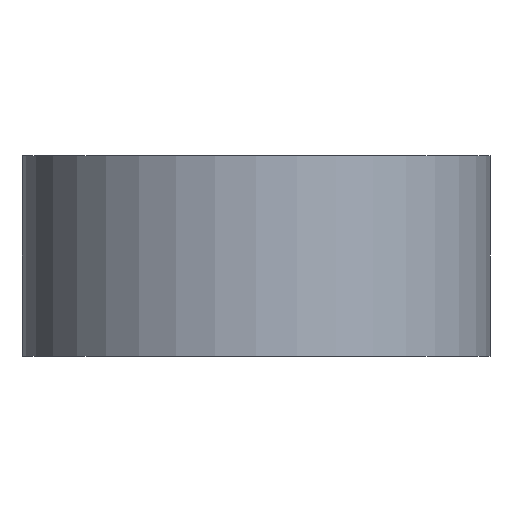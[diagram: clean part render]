
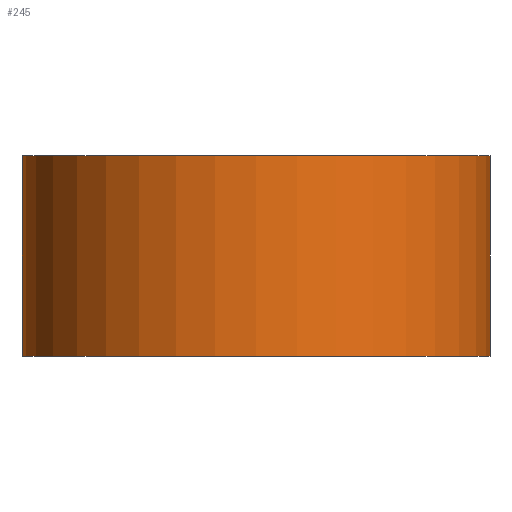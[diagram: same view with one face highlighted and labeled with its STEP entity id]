
A CAD part, front view. The second image highlights one B-rep face of the part: STEP entity #245.
In plain terms, the highlighted cylindrical face has radius 7 mm (diameter 14 mm), a partial arc.
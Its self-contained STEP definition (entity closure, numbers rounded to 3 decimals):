
#44=FACE_OUTER_BOUND('',#65,.T.);
#65=EDGE_LOOP('',(#213,#214,#215,#216));
#78=LINE('',#421,#92);
#83=LINE('',#432,#97);
#92=VECTOR('',#352,10.);
#97=VECTOR('',#363,10.);
#110=CIRCLE('',#283,7.);
#113=CIRCLE('',#290,7.);
#126=VERTEX_POINT('',#411);
#127=VERTEX_POINT('',#412);
#130=VERTEX_POINT('',#420);
#133=VERTEX_POINT('',#430);
#152=EDGE_CURVE('',#126,#127,#110,.T.);
#156=EDGE_CURVE('',#130,#127,#78,.T.);
#162=EDGE_CURVE('',#126,#133,#83,.T.);
#163=EDGE_CURVE('',#130,#133,#113,.T.);
#213=ORIENTED_EDGE('',*,*,#162,.T.);
#214=ORIENTED_EDGE('',*,*,#163,.F.);
#215=ORIENTED_EDGE('',*,*,#156,.T.);
#216=ORIENTED_EDGE('',*,*,#152,.F.);
#231=CYLINDRICAL_SURFACE('',#289,7.);
#245=ADVANCED_FACE('',(#44),#231,.T.);
#283=AXIS2_PLACEMENT_3D('',#413,#344,#345);
#289=AXIS2_PLACEMENT_3D('',#433,#364,#365);
#290=AXIS2_PLACEMENT_3D('',#434,#366,#367);
#344=DIRECTION('center_axis',(0.,0.,-1.));
#345=DIRECTION('ref_axis',(-1.,0.,0.));
#352=DIRECTION('',(0.,0.,-1.));
#363=DIRECTION('',(0.,0.,1.));
#364=DIRECTION('center_axis',(0.,0.,1.));
#365=DIRECTION('ref_axis',(-1.,0.,0.));
#366=DIRECTION('center_axis',(0.,0.,1.));
#367=DIRECTION('ref_axis',(-1.,0.,0.));
#411=CARTESIAN_POINT('',(14.,0.,-2.));
#412=CARTESIAN_POINT('',(0.,0.,-2.));
#413=CARTESIAN_POINT('Origin',(7.,0.,-2.));
#420=CARTESIAN_POINT('',(0.,0.,4.));
#421=CARTESIAN_POINT('',(0.,0.,0.));
#430=CARTESIAN_POINT('',(14.,0.,4.));
#432=CARTESIAN_POINT('',(14.,0.,0.));
#433=CARTESIAN_POINT('Origin',(7.,0.,0.));
#434=CARTESIAN_POINT('Origin',(7.,0.,4.));
